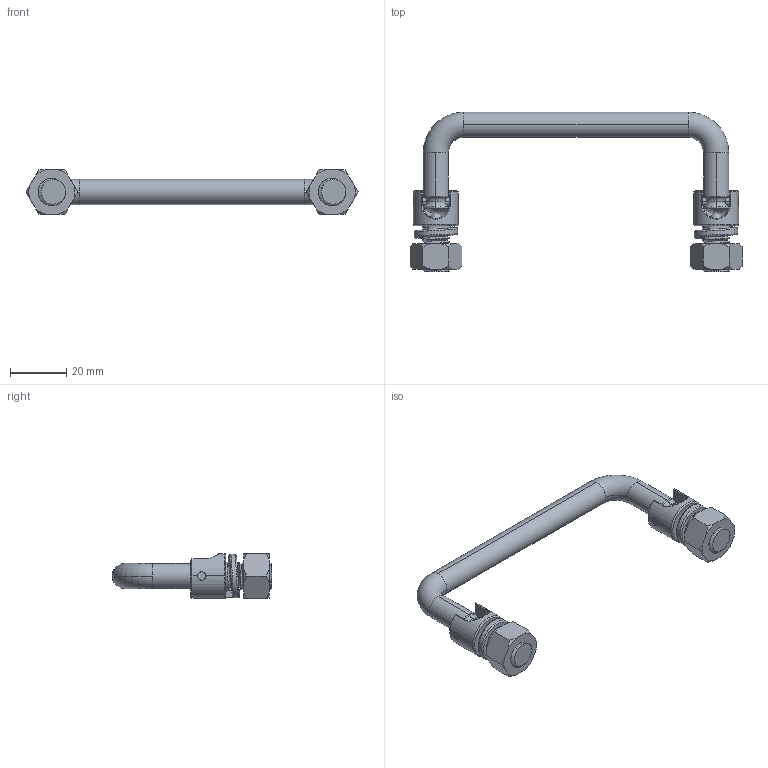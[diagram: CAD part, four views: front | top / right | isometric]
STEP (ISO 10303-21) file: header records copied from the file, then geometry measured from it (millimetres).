
FILE_DESCRIPTION (( 'STEP AP203' ), '1' );
FILE_NAME ('SK4-006A-100.STEP', '2018-11-02T00:49:50', ( 'admin' ), ( 'Microsoft' ), 'SwSTEP 2.0', 'SolidWorks 2015', '' );
FILE_SCHEMA (( 'CONFIG_CONTROL_DESIGN' ));
Length unit declared in the file: millimetre
Products named in the file (6): SK4-006A-100; SK4-006A-100 蜇璃; SK4-006A-100 种隊; SK4-006A-100 菜え; M10 1.5
Assembly tree (9 placements, depth 2):
  SK4-006A-100
    SK4-006A-100
    SK4-006A-100 蜇璃  x2
    SK4-006A-100 种隊  x2
    SK4-006A-100 菜え  x2
    M10 1.5  x2
Bounding box: 118.48 x 57 x 16 mm (x, y, z)
Volume: 17974.9 mm3; surface area: 11929.1 mm2
Topology: 11 solids, 11 shells, 224 faces, 578 edges, 362 vertices
Faces by surface type: cylinder 80, plane 50, cone 40, torus 24, bspline 22, sphere 8
Entity records: 9768 total; most frequent: CARTESIAN_POINT 6133, ORIENTED_EDGE 654, DIRECTION 582, EDGE_CURVE 327, AXIS2_PLACEMENT_3D 246, VERTEX_POINT 203, EDGE_LOOP 132, FACE_OUTER_BOUND 129
